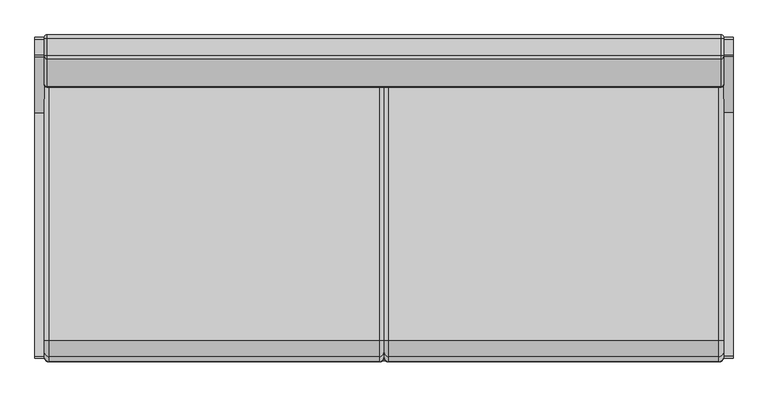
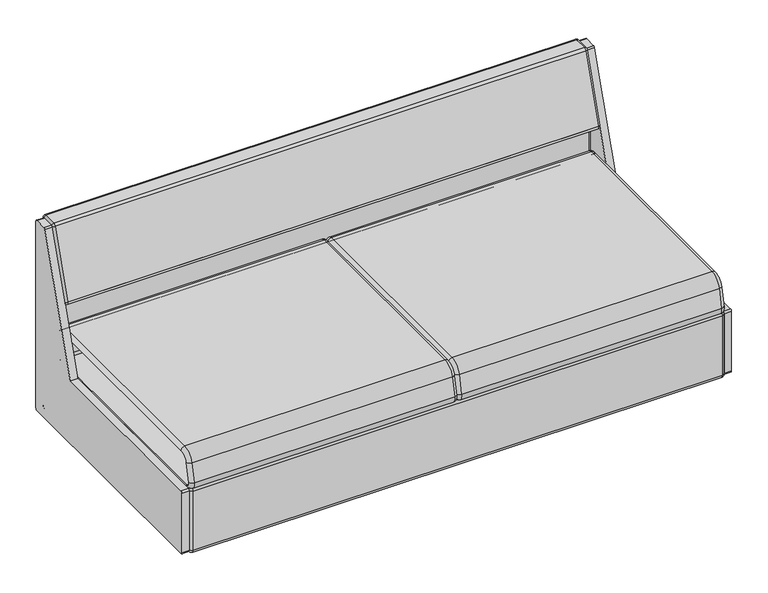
"""IFC4 building model written with IfcOpenShell, lengths in millimetres: furniture geometry, Krug-Amelio-Sleep_Sofa : AME6SL74FALS2."""

from ifc_helpers import new_model, si_unit, point, frame, frame_2d, origin, place, context, project, spatial, polyline, circle_curve, ellipse_curve, trimmed, segment, composite_curve, outline, extrude, source, transform, mapped, element, save
from ifc_brep_helpers import plane_surface, cylinder_surface, revolved_surface, advanced_brep


def furniture_3d70ace7(model_context):
    return source(origin(), model_context, "Body", "SolidModel", [
        advanced_brep(
        [(38.0998476, -937.2371716, 392.2628355), (38.0998476, -912.3922225, 361.5818786), (927.1, -912.3922225, 361.5818786), (927.1, -937.2371716, 392.2628355), (25.3998476, -924.8146971, 389.6223571), (25.3998476, -912.3922225, 374.2818786), (1854.2001524, -924.8146971, 389.6223571), (1854.2001524, -912.3922225, 374.2818786), (927.1, -923.6100731, 456.3732932), (38.0998476, -923.6100731, 456.3732932), (25.3998476, -911.1875986, 453.7328148), (1854.2001524, -911.1875986, 453.7328148), (38.0998476, -880.1314123, 491.5816186), (927.1, -880.1314123, 491.5816186), (25.3998476, -880.1314123, 478.8816186), (1854.2001524, -880.1314123, 478.8816186), (927.1, -165.3623193, 491.5816186), (38.0998476, -165.3623193, 491.5816186), (25.3998476, -165.3623193, 478.8816186), (1854.2001524, -165.3623193, 478.8816186), (38.0998476, -146.3123193, 472.5316186), (927.1, -146.3123193, 472.5316186), (25.3998476, -159.0123193, 472.5316186), (1854.2001524, -159.0123193, 472.5316186), (927.1, -146.3123193, 380.6318786), (38.0998476, -146.3123193, 380.6318786), (25.3998476, -159.0123193, 380.6318786), (1854.2001524, -159.0123193, 380.6318786), (38.0998476, -165.3623193, 361.5818786), (927.1, -165.3623193, 361.5818786), (25.3998476, -165.3623193, 374.2818786), (1854.2001524, -165.3623193, 374.2818786), (1841.5001524, -937.2371716, 392.2628355), (1841.5001524, -912.3922225, 361.5818786), (952.5, -937.2371716, 392.2628355), (952.5, -912.3922225, 361.5818786), (939.8, -926.3400373, 389.9465781), (939.8, -912.3922225, 372.7224613), (1841.5001524, -923.6100731, 456.3732932), (952.5, -923.6100731, 456.3732932), (939.8, -912.7129388, 454.0570358), (1841.5001524, -880.1314123, 491.5816186), (952.5, -880.1314123, 491.5816186), (939.8, -880.1314123, 480.4410358), (1841.5001524, -165.3623193, 491.5816186), (952.5, -165.3623193, 491.5816186), (939.8, -165.3623193, 480.4410358), (1841.5001524, -146.3123193, 472.5316186), (952.5, -146.3123193, 472.5316186), (939.8, -157.4529021, 472.5316186), (1841.5001524, -146.3123193, 380.6318786), (952.5, -146.3123193, 380.6318786), (939.8, -157.4529021, 380.6318786), (1841.5001524, -165.3623193, 361.5818786), (952.5, -165.3623193, 361.5818786), (939.8, -165.3623193, 372.7224613)],
        [
            (0, 1, circle_curve(frame((38.0998476, -912.3922225, 386.9818786), z_axis=(1.0, 0.0, 0.0), x_axis=(0.0, 0.0, -1.0)), 25.4)),
            (1, 2),
            (2, 3, circle_curve(frame((927.1, -912.3922225, 386.9818786), z_axis=(-1.0, 0.0, 0.0), x_axis=(0.0, 0.0, -1.0)), 25.4)),
            (3, 0),
            (4, 5, circle_curve(frame((25.3998476, -912.3922225, 386.9818786), z_axis=(1.0, 0.0, 0.0), x_axis=(0.0, 0.0, -1.0)), 12.7)),
            (5, 1, circle_curve(frame((38.0998476, -912.3922225, 374.2818786), z_axis=(0.0, -1.0, 0.0), x_axis=(0.0, 0.0, 1.0)), 12.7)),
            (0, 4, circle_curve(frame((38.0998476, -924.8146971, 389.6223571), z_axis=(0.0, -0.207911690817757, -0.9781476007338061), x_axis=(0.0, 0.9781476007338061, -0.207911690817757)), 12.7)),
            (6, 7, circle_curve(frame((1854.2001524, -912.3922225, 386.9818786), z_axis=(1.0, 0.0, 0.0), x_axis=(0.0, 0.0, -1.0)), 12.7)),
            (7, 5),
            (4, 6),
            (3, 8),
            (8, 9),
            (9, 0),
            (9, 10, circle_curve(frame((38.0998476, -911.1875986, 453.7328148), z_axis=(0.0, -0.20791169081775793, -0.978147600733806), x_axis=(0.0, 0.978147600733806, -0.20791169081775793)), 12.7)),
            (10, 4),
            (10, 11),
            (11, 6),
            (12, 9, circle_curve(frame((38.0998476, -880.1314123, 447.1316186), z_axis=(1.0, 0.0, 0.0), x_axis=(0.0, -0.9781476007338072, 0.20791169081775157)), 44.45)),
            (8, 13, circle_curve(frame((927.1, -880.1314123, 447.1316186), z_axis=(-1.0, 0.0, 0.0), x_axis=(0.0, -0.9781476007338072, 0.20791169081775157)), 44.45)),
            (13, 12),
            (14, 10, circle_curve(frame((25.3998476, -880.1314123, 447.1316186), z_axis=(1.0, 0.0, 0.0), x_axis=(0.0, -0.9781476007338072, 0.20791169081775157)), 31.75)),
            (12, 14, circle_curve(frame((38.0998476, -880.1314123, 478.8816186), z_axis=(0.0, -1.0, 0.0), x_axis=(0.0, 0.0, -1.0)), 12.7)),
            (15, 11, circle_curve(frame((1854.2001524, -880.1314123, 447.1316186), z_axis=(1.0, 0.0, 0.0), x_axis=(0.0, -0.9781476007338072, 0.20791169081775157)), 31.75)),
            (14, 15),
            (13, 16),
            (16, 17),
            (17, 12),
            (17, 18, circle_curve(frame((38.0998476, -165.3623193, 478.8816186), z_axis=(0.0, -1.0, 0.0), x_axis=(0.0, 0.0, -1.0)), 12.7)),
            (18, 14),
            (18, 19),
            (19, 15),
            (20, 17, circle_curve(frame((38.0998476, -165.3623193, 472.5316186), z_axis=(1.0, 0.0, 0.0), x_axis=(0.0, 0.0, 1.0)), 19.05)),
            (16, 21, circle_curve(frame((927.1, -165.3623193, 472.5316186), z_axis=(-1.0, 0.0, 0.0), x_axis=(0.0, 0.0, 1.0)), 19.05)),
            (21, 20),
            (22, 18, circle_curve(frame((25.3998476, -165.3623193, 472.5316186), z_axis=(1.0, 0.0, 0.0), x_axis=(0.0, 0.0, 1.0)), 6.35)),
            (20, 22, circle_curve(frame((38.0998476, -159.0123193, 472.5316186), z_axis=(0.0, 0.0, 1.0), x_axis=(0.0, -1.0, 0.0)), 12.7)),
            (23, 19, circle_curve(frame((1854.2001524, -165.3623193, 472.5316186), z_axis=(1.0, 0.0, 0.0), x_axis=(0.0, 0.0, 1.0)), 6.35)),
            (22, 23),
            (21, 24),
            (24, 25),
            (25, 20),
            (25, 26, circle_curve(frame((38.0998476, -159.0123193, 380.6318786), z_axis=(0.0, 0.0, 1.0), x_axis=(0.0, -1.0, 0.0)), 12.7)),
            (26, 22),
            (26, 27),
            (27, 23),
            (28, 25, circle_curve(frame((38.0998476, -165.3623193, 380.6318786), z_axis=(1.0, 0.0, 0.0), x_axis=(0.0, 1.0, 0.0)), 19.05)),
            (24, 29, circle_curve(frame((927.1, -165.3623193, 380.6318786), z_axis=(-1.0, 0.0, 0.0), x_axis=(0.0, 1.0, 0.0)), 19.05)),
            (29, 28),
            (30, 26, circle_curve(frame((25.3998476, -165.3623193, 380.6318786), z_axis=(1.0, 0.0, 0.0), x_axis=(0.0, 1.0, 0.0)), 6.35)),
            (28, 30, circle_curve(frame((38.0998476, -165.3623193, 374.2818786), z_axis=(0.0, 1.0, 0.0), x_axis=(0.0, 0.0, 1.0)), 12.7)),
            (31, 27, circle_curve(frame((1854.2001524, -165.3623193, 380.6318786), z_axis=(1.0, 0.0, 0.0), x_axis=(0.0, 1.0, 0.0)), 6.35)),
            (30, 31),
            (29, 2),
            (1, 28),
            (5, 30),
            (7, 31),
            (32, 33, circle_curve(frame((1841.5001524, -912.3922225, 386.9818786), z_axis=(1.0, 0.0, 0.0), x_axis=(0.0, 0.0, -1.0)), 25.4)),
            (33, 7, circle_curve(frame((1841.5001524, -912.3922225, 374.2818786), z_axis=(0.0, -1.0, 0.0), x_axis=(0.0, 0.0, 1.0)), 12.7)),
            (6, 32, circle_curve(frame((1841.5001524, -924.8146971, 389.6223571), z_axis=(0.0, -0.20791169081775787, -0.9781476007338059), x_axis=(0.0, 0.9781476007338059, -0.20791169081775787)), 12.7)),
            (34, 35, circle_curve(frame((952.5, -912.3922225, 386.9818786), z_axis=(1.0, 0.0, 0.0), x_axis=(0.0, 0.0, -1.0)), 25.4)),
            (35, 33),
            (32, 34),
            (36, 37, circle_curve(frame((939.8, -912.3922225, 386.9818786), z_axis=(1.0, 0.0, 0.0), x_axis=(0.0, 0.0, -1.0)), 14.2594172)),
            (37, 35, circle_curve(frame((952.5, -912.3922225, 374.3910193), z_axis=(0.0, -1.0, 0.0), x_axis=(0.0, 0.0, 1.0)), 12.8091407)),
            (34, 36, circle_curve(frame((952.5, -924.7079413, 389.5996654), z_axis=(0.0, -0.20791169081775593, -0.9781476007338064), x_axis=(0.0, 0.9781476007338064, -0.20791169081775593)), 12.8091407)),
            (2, 37, circle_curve(frame((927.1, -912.3922225, 374.3910193), z_axis=(0.0, -1.0, 0.0), x_axis=(0.0, 0.0, 1.0)), 12.8091407)),
            (36, 3, circle_curve(frame((927.1, -924.7079413, 389.5996654), z_axis=(0.0, -0.2079116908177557, -0.9781476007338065), x_axis=(0.0, 0.9781476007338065, -0.2079116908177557)), 12.8091407)),
            (11, 38, circle_curve(frame((1841.5001524, -911.1875986, 453.7328148), z_axis=(0.0, -0.20791169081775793, -0.978147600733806), x_axis=(0.0, 0.978147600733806, -0.20791169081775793)), 12.7)),
            (38, 32),
            (38, 39),
            (39, 34),
            (39, 40, circle_curve(frame((952.5, -911.0808429, 453.7101231), z_axis=(0.0, -0.20791169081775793, -0.978147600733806), x_axis=(0.0, 0.978147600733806, -0.20791169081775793)), 12.8091407)),
            (40, 36),
            (40, 8, circle_curve(frame((927.1, -911.0808429, 453.7101231), z_axis=(0.0, -0.20791169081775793, -0.978147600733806), x_axis=(0.0, 0.978147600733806, -0.20791169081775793)), 12.8091407)),
            (41, 38, circle_curve(frame((1841.5001524, -880.1314123, 447.1316186), z_axis=(1.0, 0.0, 0.0), x_axis=(0.0, -0.9781476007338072, 0.20791169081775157)), 44.45)),
            (15, 41, circle_curve(frame((1841.5001524, -880.1314123, 478.8816186), z_axis=(0.0, -0.9999999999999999, 0.0), x_axis=(0.0, 0.0, -0.9999999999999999)), 12.7)),
            (42, 39, circle_curve(frame((952.5, -880.1314123, 447.1316186), z_axis=(1.0, 0.0, 0.0), x_axis=(0.0, -0.9781476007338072, 0.20791169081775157)), 44.45)),
            (41, 42),
            (43, 40, circle_curve(frame((939.8, -880.1314123, 447.1316186), z_axis=(1.0, 0.0, 0.0), x_axis=(0.0, -0.9781476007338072, 0.20791169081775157)), 33.3094172)),
            (42, 43, circle_curve(frame((952.5, -880.1314123, 478.7724779), z_axis=(0.0, -0.9999999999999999, 0.0), x_axis=(0.0, 0.0, -0.9999999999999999)), 12.8091407)),
            (43, 13, circle_curve(frame((927.1, -880.1314123, 478.7724779), z_axis=(0.0, -1.0, 0.0), x_axis=(0.0, 0.0, -1.0)), 12.8091407)),
            (19, 44, circle_curve(frame((1841.5001524, -165.3623193, 478.8816186), z_axis=(0.0, -1.0, 0.0), x_axis=(0.0, 0.0, -1.0)), 12.7)),
            (44, 41),
            (44, 45),
            (45, 42),
            (45, 46, circle_curve(frame((952.5, -165.3623193, 478.7724779), z_axis=(0.0, -1.0, 0.0), x_axis=(0.0, 0.0, -1.0)), 12.8091407)),
            (46, 43),
            (46, 16, circle_curve(frame((927.1, -165.3623193, 478.7724779), z_axis=(0.0, -1.0, 0.0), x_axis=(0.0, 0.0, -1.0)), 12.8091407)),
            (47, 44, circle_curve(frame((1841.5001524, -165.3623193, 472.5316186), z_axis=(1.0, 0.0, 0.0), x_axis=(0.0, 0.0, 1.0)), 19.05)),
            (23, 47, circle_curve(frame((1841.5001524, -159.0123193, 472.5316186), z_axis=(0.0, 0.0, 1.0), x_axis=(0.0, -1.0, 0.0)), 12.7)),
            (48, 45, circle_curve(frame((952.5, -165.3623193, 472.5316186), z_axis=(1.0, 0.0, 0.0), x_axis=(0.0, 0.0, 1.0)), 19.05)),
            (47, 48),
            (49, 46, circle_curve(frame((939.8, -165.3623193, 472.5316186), z_axis=(1.0, 0.0, 0.0), x_axis=(0.0, 0.0, 1.0)), 7.9094172)),
            (48, 49, circle_curve(frame((952.5, -159.12146, 472.5316186), z_axis=(0.0, 0.0, 1.0), x_axis=(0.0, -1.0, 0.0)), 12.8091407)),
            (49, 21, circle_curve(frame((927.1, -159.12146, 472.5316186), z_axis=(0.0, 0.0, 1.0), x_axis=(0.0, -1.0, 0.0)), 12.8091407)),
            (27, 50, circle_curve(frame((1841.5001524, -159.0123193, 380.6318786), z_axis=(0.0, 0.0, 1.0), x_axis=(0.0, -1.0, 0.0)), 12.7)),
            (50, 47),
            (50, 51),
            (51, 48),
            (51, 52, circle_curve(frame((952.5, -159.12146, 380.6318786), z_axis=(0.0, 0.0, 1.0), x_axis=(0.0, -1.0, 0.0)), 12.8091407)),
            (52, 49),
            (52, 24, circle_curve(frame((927.1, -159.12146, 380.6318786), z_axis=(0.0, 0.0, 1.0), x_axis=(0.0, -1.0, 0.0)), 12.8091407)),
            (53, 50, circle_curve(frame((1841.5001524, -165.3623193, 380.6318786), z_axis=(1.0, 0.0, 0.0), x_axis=(0.0, 1.0, 0.0)), 19.05)),
            (31, 53, circle_curve(frame((1841.5001524, -165.3623193, 374.2818786), z_axis=(0.0, 1.0, 0.0), x_axis=(0.0, 0.0, 1.0)), 12.7)),
            (54, 51, circle_curve(frame((952.5, -165.3623193, 380.6318786), z_axis=(1.0, 0.0, 0.0), x_axis=(0.0, 1.0, 0.0)), 19.05)),
            (53, 54),
            (55, 52, circle_curve(frame((939.8, -165.3623193, 380.6318786), z_axis=(1.0, 0.0, 0.0), x_axis=(0.0, 1.0, 0.0)), 7.9094172)),
            (54, 55, circle_curve(frame((952.5, -165.3623193, 374.3910193), z_axis=(0.0, 1.0, 0.0), x_axis=(0.0, 0.0, 1.0)), 12.8091407)),
            (55, 29, circle_curve(frame((927.1, -165.3623193, 374.3910193), z_axis=(0.0, 1.0, 0.0), x_axis=(0.0, 0.0, 1.0)), 12.8091407)),
            (33, 53),
            (35, 54),
            (37, 55),
        ],
        [
            cylinder_surface(frame((25.3998476, -912.3922225, 386.9818786), z_axis=(-1.0, 0.0, 0.0), x_axis=(0.0, 0.0, -1.0)), 25.4),
            revolved_surface(trimmed(ellipse_curve(frame((38.0998476, -912.3922225, 374.2818786), z_axis=(0.0, 1.0, 0.0), x_axis=(0.0, 0.0, 1.0)), 12.7, 12.7), [point((38.0998476, -912.3922225, 361.5818786))], [point((25.3998476, -912.3922225, 374.2818786))], True, "CARTESIAN"), (25.3998476, -912.3922225, 386.9818786), (-1.0, 0.0, 0.0)),
            revolved_surface(polyline([(25.3998476, -912.3922225, 374.2818786), (1854.2001524, -912.3922225, 374.2818786)]), (25.3998476, -912.3922225, 386.9818786), (-1.0, 0.0, 0.0)),
            plane_surface(frame((927.1, -937.2371716, 392.2628355), z_axis=(0.0, -0.978147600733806, 0.20791169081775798), x_axis=(0.0, 0.20791169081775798, 0.978147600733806))),
            cylinder_surface(frame((38.0998476, -924.8146971, 389.6223571), z_axis=(0.0, -0.20791169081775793, -0.978147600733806), x_axis=(0.0, 0.978147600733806, -0.20791169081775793)), 12.7),
            plane_surface(frame((25.3998476, -924.8146971, 389.6223571), z_axis=(0.0, 0.9781476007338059, -0.20791169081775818), x_axis=(0.0, 0.20791169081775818, 0.9781476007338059))),
            cylinder_surface(frame((25.3998476, -880.1314123, 447.1316186), z_axis=(-1.0, 0.0, 0.0), x_axis=(0.0, -0.9781476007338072, 0.20791169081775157)), 44.45),
            revolved_surface(trimmed(ellipse_curve(frame((38.0998476, -911.1875986, 453.7328148), z_axis=(0.0, -0.2079116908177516, -0.9781476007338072), x_axis=(0.0, 0.9781476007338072, -0.2079116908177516)), 12.7, 12.7), [point((38.0998476, -923.6100731, 456.3732932))], [point((25.3998476, -911.1875986, 453.7328148))], True, "CARTESIAN"), (25.3998476, -880.1314123, 447.1316186), (-1.0, 0.0, 0.0)),
            revolved_surface(polyline([(25.3998476, -911.1875986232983, 453.73281478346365), (1854.2001524, -911.1875986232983, 453.73281478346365)]), (25.3998476, -880.1314123, 447.1316186), (-1.0, 0.0, 0.0)),
            plane_surface(frame((927.1, -880.1314123, 491.5816186), z_axis=(0.0, 0.0, 1.0), x_axis=(0.0, 1.0, 0.0))),
            cylinder_surface(frame((38.0998476, -880.1314123, 478.8816186), z_axis=(0.0, -1.0, 0.0), x_axis=(0.0, 0.0, -1.0)), 12.7),
            plane_surface(frame((25.3998476, -880.1314123, 478.8816186), z_axis=(0.0, 0.0, -1.0), x_axis=(0.0, 1.0, 0.0))),
            cylinder_surface(frame((25.3998476, -165.3623193, 472.5316186), z_axis=(-1.0, 0.0, 0.0), x_axis=(0.0, 0.0, 1.0)), 19.05),
            revolved_surface(trimmed(ellipse_curve(frame((38.0998476, -165.3623193, 478.8816186), z_axis=(0.0, -1.0, 0.0), x_axis=(0.0, 0.0, -1.0)), 12.7, 12.7), [point((38.0998476, -165.3623193, 491.5816186))], [point((25.3998476, -165.3623193, 478.8816186))], True, "CARTESIAN"), (25.3998476, -165.3623193, 472.5316186), (-1.0, 0.0, 0.0)),
            revolved_surface(polyline([(25.3998476, -165.3623193, 478.8816186), (1854.2001524, -165.3623193, 478.8816186)]), (25.3998476, -165.3623193, 472.5316186), (-1.0, 0.0, 0.0)),
            plane_surface(frame((927.1, -146.3123193, 472.5316186), z_axis=(0.0, 1.0, 0.0), x_axis=(0.0, 0.0, -1.0))),
            cylinder_surface(frame((38.0998476, -159.0123193, 472.5316186), z_axis=(0.0, 0.0, 1.0), x_axis=(0.0, -1.0, 0.0)), 12.7),
            plane_surface(frame((25.3998476, -159.0123193, 472.5316186), z_axis=(0.0, -1.0, 0.0), x_axis=(0.0, 0.0, -1.0))),
            cylinder_surface(frame((25.3998476, -165.3623193, 380.6318786), z_axis=(-1.0, 0.0, 0.0), x_axis=(0.0, 1.0, 0.0)), 19.05),
            revolved_surface(trimmed(ellipse_curve(frame((38.0998476, -159.0123193, 380.6318786), z_axis=(0.0, 0.0, 1.0), x_axis=(0.0, -1.0, 0.0)), 12.7, 12.7), [point((38.0998476, -146.3123193, 380.6318786))], [point((25.3998476, -159.0123193, 380.6318786))], True, "CARTESIAN"), (25.3998476, -165.3623193, 380.6318786), (-1.0, 0.0, 0.0)),
            revolved_surface(polyline([(25.3998476, -159.0123193, 380.6318786), (1854.2001524, -159.0123193, 380.6318786)]), (25.3998476, -165.3623193, 380.6318786), (-1.0, 0.0, 0.0)),
            plane_surface(frame((927.1, -165.3623193, 361.5818786), z_axis=(0.0, 0.0, -1.0), x_axis=(0.0, -1.0, 0.0))),
            cylinder_surface(frame((38.0998476, -165.3623193, 374.2818786), z_axis=(0.0, 1.0, 0.0), x_axis=(0.0, 0.0, 1.0)), 12.7),
            plane_surface(frame((25.3998476, -165.3623193, 374.2818786), z_axis=(0.0, 0.0, 1.0), x_axis=(0.0, -1.0, 0.0))),
            revolved_surface(trimmed(ellipse_curve(frame((1841.5001524, -912.3922225, 374.2818786), z_axis=(0.0, 1.0, 0.0), x_axis=(0.0, 0.0, 1.0)), 12.7, 12.7), [point((1854.2001524, -912.3922225, 374.2818786))], [point((1841.5001524, -912.3922225, 361.5818786))], True, "CARTESIAN"), (25.3998476, -912.3922225, 386.9818786), (-1.0, 0.0, 0.0)),
            revolved_surface(trimmed(ellipse_curve(frame((952.5, -912.3922225, 374.3910193), z_axis=(0.0, 1.0, 0.0), x_axis=(0.0, 0.0, 1.0)), 12.8091407, 12.8091407), [point((952.5, -912.3922225, 361.5818786))], [point((939.8, -912.3922225, 372.7224613))], True, "CARTESIAN"), (25.3998476, -912.3922225, 386.9818786), (-1.0, 0.0, 0.0)),
            revolved_surface(trimmed(ellipse_curve(frame((927.1, -912.3922225, 374.3910193), z_axis=(0.0, 1.0, 0.0), x_axis=(0.0, 0.0, 1.0)), 12.8091407, 12.8091407), [point((939.8, -912.3922225, 372.7224613))], [point((927.1, -912.3922225, 361.5818786))], True, "CARTESIAN"), (25.3998476, -912.3922225, 386.9818786), (-1.0, 0.0, 0.0)),
            cylinder_surface(frame((1841.5001524, -924.8146971, 389.6223571), z_axis=(0.0, -0.20791169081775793, -0.978147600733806), x_axis=(0.0, 0.978147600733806, -0.20791169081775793)), 12.7),
            plane_surface(frame((1841.5001524, -937.2371716, 392.2628355), z_axis=(0.0, -0.978147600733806, 0.20791169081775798), x_axis=(0.0, 0.20791169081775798, 0.978147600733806))),
            cylinder_surface(frame((952.5, -924.7079413, 389.5996654), z_axis=(0.0, -0.20791169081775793, -0.978147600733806), x_axis=(0.0, 0.978147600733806, -0.20791169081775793)), 12.8091407),
            cylinder_surface(frame((927.1, -924.7079413, 389.5996654), z_axis=(0.0, -0.20791169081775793, -0.978147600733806), x_axis=(0.0, 0.978147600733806, -0.20791169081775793)), 12.8091407),
            revolved_surface(trimmed(ellipse_curve(frame((1841.5001524, -911.1875986, 453.7328148), z_axis=(0.0, -0.2079116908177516, -0.9781476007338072), x_axis=(0.0, 0.9781476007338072, -0.2079116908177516)), 12.7, 12.7), [point((1854.2001524, -911.1875986, 453.7328148))], [point((1841.5001524, -923.6100731, 456.3732932))], True, "CARTESIAN"), (25.3998476, -880.1314123, 447.1316186), (-1.0, 0.0, 0.0)),
            revolved_surface(trimmed(ellipse_curve(frame((952.5, -911.0808429, 453.7101231), z_axis=(0.0, -0.2079116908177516, -0.9781476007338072), x_axis=(0.0, 0.9781476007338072, -0.2079116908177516)), 12.8091407, 12.8091407), [point((952.5, -923.6100731, 456.3732932))], [point((939.8, -912.7129388, 454.0570358))], True, "CARTESIAN"), (25.3998476, -880.1314123, 447.1316186), (-1.0, 0.0, 0.0)),
            revolved_surface(trimmed(ellipse_curve(frame((927.1, -911.0808429, 453.7101231), z_axis=(0.0, -0.2079116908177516, -0.9781476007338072), x_axis=(0.0, 0.9781476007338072, -0.2079116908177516)), 12.8091407, 12.8091407), [point((939.8, -912.7129388, 454.0570358))], [point((927.1, -923.6100731, 456.3732932))], True, "CARTESIAN"), (25.3998476, -880.1314123, 447.1316186), (-1.0, 0.0, 0.0)),
            cylinder_surface(frame((1841.5001524, -880.1314123, 478.8816186), z_axis=(0.0, -1.0, 0.0), x_axis=(0.0, 0.0, -1.0)), 12.7),
            plane_surface(frame((1841.5001524, -880.1314123, 491.5816186), z_axis=(0.0, 0.0, 1.0), x_axis=(0.0, 1.0, 0.0))),
            cylinder_surface(frame((952.5, -880.1314123, 478.7724779), z_axis=(0.0, -1.0, 0.0), x_axis=(0.0, 0.0, -1.0)), 12.8091407),
            cylinder_surface(frame((927.1, -880.1314123, 478.7724779), z_axis=(0.0, -1.0, 0.0), x_axis=(0.0, 0.0, -1.0)), 12.8091407),
            revolved_surface(trimmed(ellipse_curve(frame((1841.5001524, -165.3623193, 478.8816186), z_axis=(0.0, -1.0, 0.0), x_axis=(0.0, 0.0, -1.0)), 12.7, 12.7), [point((1854.2001524, -165.3623193, 478.8816186))], [point((1841.5001524, -165.3623193, 491.5816186))], True, "CARTESIAN"), (25.3998476, -165.3623193, 472.5316186), (-1.0, 0.0, 0.0)),
            revolved_surface(trimmed(ellipse_curve(frame((952.5, -165.3623193, 478.7724779), z_axis=(0.0, -1.0, 0.0), x_axis=(0.0, 0.0, -1.0)), 12.8091407, 12.8091407), [point((952.5, -165.3623193, 491.5816186))], [point((939.8, -165.3623193, 480.4410358))], True, "CARTESIAN"), (25.3998476, -165.3623193, 472.5316186), (-1.0, 0.0, 0.0)),
            revolved_surface(trimmed(ellipse_curve(frame((927.1, -165.3623193, 478.7724779), z_axis=(0.0, -1.0, 0.0), x_axis=(0.0, 0.0, -1.0)), 12.8091407, 12.8091407), [point((939.8, -165.3623193, 480.4410358))], [point((927.1, -165.3623193, 491.5816186))], True, "CARTESIAN"), (25.3998476, -165.3623193, 472.5316186), (-1.0, 0.0, 0.0)),
            cylinder_surface(frame((1841.5001524, -159.0123193, 472.5316186), z_axis=(0.0, 0.0, 1.0), x_axis=(0.0, -1.0, 0.0)), 12.7),
            plane_surface(frame((1841.5001524, -146.3123193, 472.5316186), z_axis=(0.0, 1.0, 0.0), x_axis=(0.0, 0.0, -1.0))),
            cylinder_surface(frame((952.5, -159.12146, 472.5316186), z_axis=(0.0, 0.0, 1.0), x_axis=(0.0, -1.0, 0.0)), 12.8091407),
            cylinder_surface(frame((927.1, -159.12146, 472.5316186), z_axis=(0.0, 0.0, 1.0), x_axis=(0.0, -1.0, 0.0)), 12.8091407),
            revolved_surface(trimmed(ellipse_curve(frame((1841.5001524, -159.0123193, 380.6318786), z_axis=(0.0, 0.0, 1.0), x_axis=(0.0, -1.0, 0.0)), 12.7, 12.7), [point((1854.2001524, -159.0123193, 380.6318786))], [point((1841.5001524, -146.3123193, 380.6318786))], True, "CARTESIAN"), (25.3998476, -165.3623193, 380.6318786), (-1.0, 0.0, 0.0)),
            revolved_surface(trimmed(ellipse_curve(frame((952.5, -159.12146, 380.6318786), z_axis=(0.0, 0.0, 1.0), x_axis=(0.0, -1.0, 0.0)), 12.8091407, 12.8091407), [point((952.5, -146.3123193, 380.6318786))], [point((939.8, -157.4529021, 380.6318786))], True, "CARTESIAN"), (25.3998476, -165.3623193, 380.6318786), (-1.0, 0.0, 0.0)),
            revolved_surface(trimmed(ellipse_curve(frame((927.1, -159.12146, 380.6318786), z_axis=(0.0, 0.0, 1.0), x_axis=(0.0, -1.0, 0.0)), 12.8091407, 12.8091407), [point((939.8, -157.4529021, 380.6318786))], [point((927.1, -146.3123193, 380.6318786))], True, "CARTESIAN"), (25.3998476, -165.3623193, 380.6318786), (-1.0, 0.0, 0.0)),
            cylinder_surface(frame((1841.5001524, -165.3623193, 374.2818786), z_axis=(0.0, 1.0, 0.0), x_axis=(0.0, 0.0, 1.0)), 12.7),
            plane_surface(frame((1841.5001524, -165.3623193, 361.5818786), z_axis=(0.0, 0.0, -1.0), x_axis=(0.0, -1.0, 0.0))),
            cylinder_surface(frame((952.5, -165.3623193, 374.3910193), z_axis=(0.0, 1.0, 0.0), x_axis=(0.0, 0.0, 1.0)), 12.8091407),
            cylinder_surface(frame((927.1, -165.3623193, 374.3910193), z_axis=(0.0, 1.0, 0.0), x_axis=(0.0, 0.0, 1.0)), 12.8091407),
        ],
        [
            (0, [[1, 2, 3, 4]]),
            (1, [[5, 6, -1, 7]]),
            (2, [[8, 9, -5, 10]]),
            (3, [[-4, 11, 12, 13]]),
            (4, [[-7, -13, 14, 15]]),
            (5, [[-10, -15, 16, 17]]),
            (6, [[18, -12, 19, 20]]),
            (7, [[21, -14, -18, 22]]),
            (8, [[23, -16, -21, 24]]),
            (9, [[-20, 25, 26, 27]]),
            (10, [[-22, -27, 28, 29]]),
            (11, [[-24, -29, 30, 31]]),
            (12, [[32, -26, 33, 34]]),
            (13, [[35, -28, -32, 36]]),
            (14, [[37, -30, -35, 38]]),
            (15, [[-34, 39, 40, 41]]),
            (16, [[-36, -41, 42, 43]]),
            (17, [[-38, -43, 44, 45]]),
            (18, [[46, -40, 47, 48]]),
            (19, [[49, -42, -46, 50]]),
            (20, [[51, -44, -49, 52]]),
            (21, [[-48, 53, -2, 54]]),
            (22, [[-50, -54, -6, 55]]),
            (23, [[-52, -55, -9, 56]]),
            (24, [[57, 58, -8, 59]]),
            (0, [[60, 61, -57, 62]]),
            (25, [[63, 64, -60, 65]]),
            (26, [[-3, 66, -63, 67]]),
            (27, [[-59, -17, 68, 69]]),
            (28, [[-62, -69, 70, 71]]),
            (29, [[-65, -71, 72, 73]]),
            (30, [[-67, -73, 74, -11]]),
            (31, [[75, -68, -23, 76]]),
            (6, [[77, -70, -75, 78]]),
            (32, [[79, -72, -77, 80]]),
            (33, [[-19, -74, -79, 81]]),
            (34, [[-76, -31, 82, 83]]),
            (35, [[-78, -83, 84, 85]]),
            (36, [[-80, -85, 86, 87]]),
            (37, [[-81, -87, 88, -25]]),
            (38, [[89, -82, -37, 90]]),
            (12, [[91, -84, -89, 92]]),
            (39, [[93, -86, -91, 94]]),
            (40, [[-33, -88, -93, 95]]),
            (41, [[-90, -45, 96, 97]]),
            (42, [[-92, -97, 98, 99]]),
            (43, [[-94, -99, 100, 101]]),
            (44, [[-95, -101, 102, -39]]),
            (45, [[103, -96, -51, 104]]),
            (18, [[105, -98, -103, 106]]),
            (46, [[107, -100, -105, 108]]),
            (47, [[-47, -102, -107, 109]]),
            (48, [[-104, -56, -58, 110]]),
            (49, [[-106, -110, -61, 111]]),
            (50, [[-108, -111, -64, 112]]),
            (51, [[-109, -112, -66, -53]]),
        ],
    ),
        advanced_brep(
        [(1844.6751524, -921.9607509, 134.9997313), (34.9248476, -921.9607509, 134.9997313), (25.3998476, -921.9607509, 144.5247313), (1854.2001524, -921.9607509, 144.5247313), (34.9248476, -934.660749, 147.6997294), (1844.6751524, -934.660749, 147.6997294), (25.3998476, -925.135749, 147.6997294), (1854.2001524, -925.135749, 147.6997294), (1844.6751524, -934.660749, 362.2992506), (34.9248476, -934.660749, 362.2992506), (25.3998476, -925.135749, 362.2992506), (1854.2001524, -925.135749, 362.2992506), (1844.6751524, -921.9607509, 374.9992487), (1854.2001524, -921.9607509, 365.4742487), (25.3998476, -921.9607509, 365.4742487), (34.9248476, -921.9607509, 374.9992487)],
        [
            (0, 1),
            (1, 2, circle_curve(frame((34.9248476, -921.9607509, 144.5247313), z_axis=(0.0, 1.0, 0.0), x_axis=(0.0, 0.0, 1.0)), 9.525)),
            (2, 3),
            (3, 0, circle_curve(frame((1844.6751524, -921.9607509, 144.5247313), z_axis=(0.0, 1.0, 0.0), x_axis=(0.0, 0.0, 1.0)), 9.525)),
            (4, 1, circle_curve(frame((34.9248476, -921.9607509, 147.6997294), z_axis=(1.0, 0.0, 0.0), x_axis=(0.0, 0.0, -1.0)), 12.6999981)),
            (0, 5, circle_curve(frame((1844.6751524, -921.9607509, 147.6997294), z_axis=(-1.0, 0.0, 0.0), x_axis=(0.0, 0.0, -1.0)), 12.6999981)),
            (5, 4),
            (6, 2, circle_curve(frame((25.3998476, -921.9607509, 147.6997294), z_axis=(1.0, 0.0, 0.0), x_axis=(0.0, 0.0, -1.0)), 3.1749981)),
            (4, 6, circle_curve(frame((34.9248476, -925.135749, 147.6997294), z_axis=(0.0, 0.0, -1.0), x_axis=(0.0, 1.0, 0.0)), 9.525)),
            (7, 3, circle_curve(frame((1854.2001524, -921.9607509, 147.6997294), z_axis=(1.0, 0.0, 0.0), x_axis=(0.0, 0.0, -1.0)), 3.1749981)),
            (6, 7),
            (7, 5, circle_curve(frame((1844.6751524, -925.135749, 147.6997294), z_axis=(0.0, 0.0, -1.0), x_axis=(0.0, 1.0, 0.0)), 9.525)),
            (5, 8),
            (8, 9),
            (9, 4),
            (9, 10, circle_curve(frame((34.9248476, -925.135749, 362.2992506), z_axis=(0.0, 0.0, -1.0), x_axis=(0.0, 1.0, 0.0)), 9.525)),
            (10, 6),
            (10, 11),
            (11, 7),
            (11, 8, circle_curve(frame((1844.6751524, -925.135749, 362.2992506), z_axis=(0.0, 0.0, -1.0), x_axis=(0.0, 1.0, 0.0)), 9.525)),
            (12, 13, circle_curve(frame((1844.6751524, -921.9607509, 365.4742487), z_axis=(0.0, 1.0, 0.0), x_axis=(0.0, 0.0, -1.0)), 9.525)),
            (13, 14),
            (14, 15, circle_curve(frame((34.9248476, -921.9607509, 365.4742487), z_axis=(0.0, 1.0, 0.0), x_axis=(0.0, 0.0, -1.0)), 9.525)),
            (15, 12),
            (15, 9, circle_curve(frame((34.9248476, -921.9607509, 362.2992506), z_axis=(1.0, 0.0, 0.0), x_axis=(0.0, -1.0, 0.0)), 12.6999981)),
            (8, 12, circle_curve(frame((1844.6751524, -921.9607509, 362.2992506), z_axis=(-1.0, 0.0, 0.0), x_axis=(0.0, -1.0, 0.0)), 12.6999981)),
            (14, 10, circle_curve(frame((25.3998476, -921.9607509, 362.2992506), z_axis=(1.0, 0.0, 0.0), x_axis=(0.0, -1.0, 0.0)), 3.1749981)),
            (13, 11, circle_curve(frame((1854.2001524, -921.9607509, 362.2992506), z_axis=(1.0, 0.0, 0.0), x_axis=(0.0, -1.0, 0.0)), 3.1749981)),
        ],
        [
            plane_surface(frame((25.3998476, -921.9607509, 134.9997313), z_axis=(0.0, 1.0, 0.0), x_axis=(-1.0, 0.0, 0.0))),
            cylinder_surface(frame((25.3998476, -921.9607509, 147.6997294), z_axis=(-1.0, 0.0, 0.0), x_axis=(0.0, 0.0, -1.0)), 12.6999981),
            revolved_surface(trimmed(ellipse_curve(frame((34.9248476, -921.9607509, 144.5247313), z_axis=(0.0, 1.0, 0.0), x_axis=(0.0, 0.0, 1.0)), 9.525, 9.525), [point((34.9248476, -921.9607509, 134.9997313))], [point((25.3998476, -921.9607509, 144.5247313))], True, "CARTESIAN"), (25.3998476, -921.9607509, 147.6997294), (-1.0, 0.0, 0.0)),
            revolved_surface(polyline([(25.3998476, -921.9607509, 144.52473129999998), (1854.2001524, -921.9607509, 144.52473129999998)]), (25.3998476, -921.9607509, 147.6997294), (-1.0, 0.0, 0.0)),
            revolved_surface(trimmed(ellipse_curve(frame((1844.6751524, -921.9607509, 144.5247313), z_axis=(0.0, 1.0, 0.0), x_axis=(0.0, 0.0, 1.0)), 9.525, 9.525), [point((1854.2001524, -921.9607509, 144.5247313))], [point((1844.6751524, -921.9607509, 134.9997313))], True, "CARTESIAN"), (25.3998476, -921.9607509, 147.6997294), (-1.0, 0.0, 0.0)),
            plane_surface(frame((1844.6751524, -934.660749, 147.6997294), z_axis=(0.0, -1.0, 0.0), x_axis=(0.0, 0.0, 1.0))),
            cylinder_surface(frame((34.9248476, -925.135749, 147.6997294), z_axis=(0.0, 0.0, -1.0), x_axis=(0.0, 1.0, 0.0)), 9.525),
            plane_surface(frame((25.3998476, -925.135749, 147.6997294), z_axis=(0.0, 1.0, 0.0), x_axis=(0.0, 0.0, 1.0))),
            cylinder_surface(frame((1844.6751524, -925.135749, 147.6997294), z_axis=(0.0, 0.0, -1.0), x_axis=(0.0, 1.0, 0.0)), 9.525),
            plane_surface(frame((25.3998476, -921.9607509, 374.9992487), z_axis=(0.0, 1.0, 0.0), x_axis=(-1.0, 0.0, 0.0))),
            cylinder_surface(frame((25.3998476, -921.9607509, 362.2992506), z_axis=(-1.0, 0.0, 0.0), x_axis=(0.0, -1.0, 0.0)), 12.6999981),
            revolved_surface(trimmed(ellipse_curve(frame((34.9248476, -925.135749, 362.2992506), z_axis=(0.0, 0.0, -1.0), x_axis=(0.0, 1.0, 0.0)), 9.525, 9.525), [point((34.9248476, -934.660749, 362.2992506))], [point((25.3998476, -925.135749, 362.2992506))], True, "CARTESIAN"), (25.3998476, -921.9607509, 362.2992506), (-1.0, 0.0, 0.0)),
            revolved_surface(polyline([(25.3998476, -925.135749, 362.2992506), (1854.2001524, -925.135749, 362.2992506)]), (25.3998476, -921.9607509, 362.2992506), (-1.0, 0.0, 0.0)),
            revolved_surface(trimmed(ellipse_curve(frame((1844.6751524, -925.135749, 362.2992506), z_axis=(0.0, 0.0, -1.0), x_axis=(0.0, 1.0, 0.0)), 9.525, 9.525), [point((1854.2001524, -925.135749, 362.2992506))], [point((1844.6751524, -934.660749, 362.2992506))], True, "CARTESIAN"), (25.3998476, -921.9607509, 362.2992506), (-1.0, 0.0, 0.0)),
        ],
        [
            (0, [[1, 2, 3, 4]]),
            (1, [[5, -1, 6, 7]]),
            (2, [[8, -2, -5, 9]]),
            (3, [[10, -3, -8, 11]]),
            (4, [[-6, -4, -10, 12]]),
            (5, [[-7, 13, 14, 15]]),
            (6, [[-9, -15, 16, 17]]),
            (7, [[-11, -17, 18, 19]]),
            (8, [[-12, -19, 20, -13]]),
            (9, [[21, 22, 23, 24]]),
            (10, [[25, -14, 26, -24]]),
            (11, [[27, -16, -25, -23]]),
            (12, [[28, -18, -27, -22]]),
            (13, [[-26, -20, -28, -21]]),
        ],
    ),
        advanced_brep(
        [(1854.1958852, -63.7624971, 144.52473), (1854.1958852, -66.9374971, 141.34973), (1847.8458852, -66.9374971, 134.99973), (1847.8458852, -57.4124971, 144.52473), (25.3998476, -63.7624971, 144.52473), (25.3998476, -66.9374971, 141.34973), (31.7498476, -57.4124971, 144.52473), (31.7498476, -66.9374971, 134.99973), (1847.8458852, -57.4124971, 826.0983288), (1854.1958852, -63.7624971, 826.0983288), (25.3998476, -63.7624971, 826.0983288), (31.7498476, -57.4124971, 826.0983288), (1854.1958852, -66.9374971, 829.2733287), (1847.8458852, -66.9374971, 835.6233287), (25.3998476, -66.9374971, 829.2733287), (31.7498476, -66.9374971, 835.6233288), (1847.8458852, -112.8215494, 835.6233287), (1854.1958852, -112.8215494, 829.2733287), (25.3998476, -112.8215494, 829.2733287), (31.7498476, -112.8215494, 835.6233288), (1854.1958852, -115.8372492, 827.0913944), (1847.8458852, -121.8686489, 829.0775258), (25.3998476, -115.8372492, 827.0913944), (31.7498476, -121.8686489, 829.0775258), (1847.8458852, -197.1461406, 600.4780211), (1854.1958852, -191.1147409, 598.4918897), (25.3998476, -191.1147409, 598.4918897), (31.7498476, -197.1461406, 600.4780211), (1854.1958852, -188.099041, 594.3238241), (1847.8458852, -188.099041, 587.9738241), (25.3998476, -188.099041, 594.3238241), (31.7498476, -188.099041, 587.9738241), (1847.8458852, -139.962332, 587.9738241), (1854.1958852, -133.612332, 594.3238241), (25.3998476, -133.612332, 594.3238241), (31.7498476, -139.962332, 587.9738241), (1847.8458852, -139.962332, 134.99973), (1854.1958852, -133.612332, 141.34973), (25.3998476, -133.612332, 141.34973), (31.7498476, -139.962332, 134.99973)],
        [
            (0, 1, circle_curve(frame((1854.1958852, -66.9374971, 144.52473), z_axis=(-1.0, 0.0, 0.0), x_axis=(0.0, 0.0, -1.0)), 3.175)),
            (1, 2, circle_curve(frame((1847.8458852, -66.9374971, 141.34973), z_axis=(0.0, 1.0, 0.0), x_axis=(0.0, 0.0, -1.0)), 6.35)),
            (2, 3, circle_curve(frame((1847.8458852, -66.9374971, 144.52473), z_axis=(1.0, 0.0, 0.0), x_axis=(0.0, 0.0, -1.0)), 9.525)),
            (3, 0, circle_curve(frame((1847.8458852, -63.7624971, 144.52473), z_axis=(0.0, 0.0, -1.0), x_axis=(0.0, 1.0, 0.0)), 6.35)),
            (4, 5, circle_curve(frame((25.3998476, -66.9374971, 144.52473), z_axis=(-1.0, 0.0, 0.0), x_axis=(0.0, 0.0, -1.0)), 3.175)),
            (5, 1),
            (0, 4),
            (6, 7, circle_curve(frame((31.7498476, -66.9374971, 144.52473), z_axis=(-1.0, 0.0, 0.0), x_axis=(0.0, 0.0, -1.0)), 9.525)),
            (7, 5, circle_curve(frame((31.7498476, -66.9374971, 141.34973), z_axis=(0.0, 1.0, 0.0), x_axis=(0.0, 0.0, -1.0)), 6.35)),
            (4, 6, circle_curve(frame((31.7498476, -63.7624971, 144.52473), z_axis=(0.0, 0.0, -1.0), x_axis=(0.0, 1.0, 0.0)), 6.35)),
            (2, 7),
            (6, 3),
            (3, 8),
            (8, 9, circle_curve(frame((1847.8458852, -63.7624971, 826.0983288), z_axis=(0.0, 0.0, -1.0), x_axis=(0.0, 1.0, 0.0)), 6.35)),
            (9, 0),
            (9, 10),
            (10, 4),
            (10, 11, circle_curve(frame((31.7498476, -63.7624971, 826.0983288), z_axis=(0.0, 0.0, -1.0), x_axis=(0.0, 1.0, 0.0)), 6.35)),
            (11, 6),
            (11, 8),
            (12, 9, circle_curve(frame((1854.1958852, -66.9374971, 826.0983288), z_axis=(-1.0, 0.0, 0.0), x_axis=(0.0, 1.0, 0.0)), 3.175)),
            (8, 13, circle_curve(frame((1847.8458852, -66.9374971, 826.0983288), z_axis=(1.0, 0.0, 0.0), x_axis=(0.0, 1.0, 0.0)), 9.525)),
            (13, 12, circle_curve(frame((1847.8458852, -66.9374971, 829.2733287), z_axis=(0.0, 1.0, 0.0), x_axis=(0.0, 0.0, 1.0)), 6.35)),
            (14, 10, circle_curve(frame((25.3998476, -66.9374971, 826.0983288), z_axis=(-1.0, 0.0, 0.0), x_axis=(0.0, 1.0, 0.0)), 3.175)),
            (12, 14),
            (15, 11, circle_curve(frame((31.7498476, -66.9374971, 826.0983288), z_axis=(-1.0, 0.0, 0.0), x_axis=(0.0, 1.0, 0.0)), 9.525)),
            (14, 15, circle_curve(frame((31.7498476, -66.9374971, 829.2733288), z_axis=(0.0, 1.0, 0.0), x_axis=(0.0, 0.0, 1.0)), 6.35)),
            (15, 13),
            (13, 16),
            (16, 17, circle_curve(frame((1847.8458852, -112.8215494, 829.2733287), z_axis=(0.0, 1.0, 0.0), x_axis=(0.0, 0.0, 1.0)), 6.35)),
            (17, 12),
            (17, 18),
            (18, 14),
            (18, 19, circle_curve(frame((31.7498476, -112.8215494, 829.2733288), z_axis=(0.0, 1.0, 0.0), x_axis=(0.0, 0.0, 1.0)), 6.35)),
            (19, 15),
            (19, 16),
            (20, 17, circle_curve(frame((1854.1958852, -112.8215494, 826.0983288), z_axis=(-1.0, 0.0, 0.0), x_axis=(0.0, 0.0, 1.0)), 3.175)),
            (16, 21, circle_curve(frame((1847.8458852, -112.8215494, 826.0983288), z_axis=(1.0, 0.0, 0.0), x_axis=(0.0, 0.0, 1.0)), 9.525)),
            (21, 20, circle_curve(frame((1847.8458852, -115.8372492, 827.0913944), z_axis=(0.0, 0.31277658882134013, 0.9498267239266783), x_axis=(0.0, -0.9498267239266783, 0.31277658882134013)), 6.35)),
            (22, 18, circle_curve(frame((25.3998476, -112.8215494, 826.0983288), z_axis=(-1.0, 0.0, 0.0), x_axis=(0.0, 0.0, 1.0)), 3.175)),
            (20, 22),
            (23, 19, circle_curve(frame((31.7498476, -112.8215494, 826.0983288), z_axis=(-1.0, 0.0, 0.0), x_axis=(0.0, 0.0, 1.0)), 9.525)),
            (22, 23, circle_curve(frame((31.7498476, -115.8372492, 827.0913944), z_axis=(0.0, 0.31277658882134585, 0.9498267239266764), x_axis=(0.0, -0.9498267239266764, 0.31277658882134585)), 6.35)),
            (23, 21),
            (21, 24),
            (24, 25, circle_curve(frame((1847.8458852, -191.1147409, 598.4918897), z_axis=(0.0, 0.31277658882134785, 0.9498267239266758), x_axis=(0.0, -0.9498267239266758, 0.31277658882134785)), 6.35)),
            (25, 20),
            (25, 26),
            (26, 22),
            (26, 27, circle_curve(frame((31.7498476, -191.1147409, 598.4918897), z_axis=(0.0, 0.31277658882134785, 0.9498267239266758), x_axis=(0.0, -0.9498267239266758, 0.31277658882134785)), 6.35)),
            (27, 23),
            (27, 24),
            (28, 25, circle_curve(frame((1854.1958852, -188.099041, 597.4988241), z_axis=(-1.0, 0.0, 0.0), x_axis=(0.0, -0.9498267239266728, 0.31277658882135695)), 3.175)),
            (24, 29, circle_curve(frame((1847.8458852, -188.099041, 597.4988241), z_axis=(1.0, 0.0, 0.0), x_axis=(0.0, -0.9498267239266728, 0.31277658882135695)), 9.525)),
            (29, 28, circle_curve(frame((1847.8458852, -188.099041, 594.3238241), z_axis=(0.0, -1.0, 0.0), x_axis=(0.0, 0.0, -1.0)), 6.35)),
            (30, 26, circle_curve(frame((25.3998476, -188.099041, 597.4988241), z_axis=(-1.0, 0.0, 0.0), x_axis=(0.0, -0.9498267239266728, 0.31277658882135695)), 3.175)),
            (28, 30),
            (31, 27, circle_curve(frame((31.7498476, -188.099041, 597.4988241), z_axis=(-1.0, 0.0, 0.0), x_axis=(0.0, -0.9498267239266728, 0.31277658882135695)), 9.525)),
            (30, 31, circle_curve(frame((31.7498476, -188.099041, 594.3238241), z_axis=(0.0, -1.0, 0.0), x_axis=(0.0, 0.0, -1.0)), 6.35)),
            (31, 29),
            (29, 32),
            (32, 33, ellipse_curve(frame((1847.8458852, -133.612332, 594.3238241), z_axis=(0.0, -0.7071067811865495, 0.7071067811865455), x_axis=(0.0, -0.7071067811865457, -0.7071067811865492)), 8.9802561, 6.35)),
            (33, 28),
            (33, 34),
            (34, 30),
            (34, 35, ellipse_curve(frame((31.7498476, -133.612332, 594.3238241), z_axis=(0.0, -0.7071067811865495, 0.7071067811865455), x_axis=(0.0, -0.7071067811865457, -0.7071067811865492)), 8.9802561, 6.35)),
            (35, 31),
            (35, 32),
            (32, 36),
            (36, 37, ellipse_curve(frame((1847.8458852, -133.612332, 141.34973), z_axis=(0.0, -0.7071067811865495, 0.7071067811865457), x_axis=(0.0, 0.7071067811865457, 0.7071067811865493)), 8.9802561, 6.35)),
            (37, 33),
            (37, 38),
            (38, 34),
            (38, 39, ellipse_curve(frame((31.7498476, -133.612332, 141.34973), z_axis=(0.0, -0.7071067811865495, 0.7071067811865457), x_axis=(0.0, 0.7071067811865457, 0.7071067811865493)), 8.9802561, 6.35)),
            (39, 35),
            (39, 36),
            (36, 2),
            (1, 37),
            (5, 38),
            (7, 39),
        ],
        [
            revolved_surface(trimmed(ellipse_curve(frame((1847.8458852, -66.9374971, 141.34973), z_axis=(0.0, -1.0, 0.0), x_axis=(0.0, 0.0, -1.0)), 6.35, 6.35), [point((1847.8458852, -66.9374971, 134.99973))], [point((1854.1958852, -66.9374971, 141.34973))], True, "CARTESIAN"), (25.3998476, -66.9374971, 144.52473), (1.0, 0.0, 0.0)),
            revolved_surface(polyline([(1854.1958852, -66.9374971, 141.34973), (25.3998476, -66.9374971, 141.34973)]), (25.3998476, -66.9374971, 144.52473), (1.0, 0.0, 0.0)),
            revolved_surface(trimmed(ellipse_curve(frame((31.7498476, -66.9374971, 141.34973), z_axis=(0.0, -1.0, 0.0), x_axis=(0.0, 0.0, -1.0)), 6.35, 6.35), [point((25.3998476, -66.9374971, 141.34973))], [point((31.7498476, -66.9374971, 134.99973))], True, "CARTESIAN"), (25.3998476, -66.9374971, 144.52473), (1.0, 0.0, 0.0)),
            cylinder_surface(frame((25.3998476, -66.9374971, 144.52473), z_axis=(1.0, 0.0, 0.0), x_axis=(0.0, 0.0, -1.0)), 9.525),
            cylinder_surface(frame((1847.8458852, -63.7624971, 144.52473), z_axis=(0.0, 0.0, -1.0), x_axis=(0.0, 1.0, 0.0)), 6.35),
            plane_surface(frame((1854.1958852, -63.7624971, 144.52473), z_axis=(0.0, -1.0, 0.0), x_axis=(0.0, 0.0, 1.0))),
            cylinder_surface(frame((31.7498476, -63.7624971, 144.52473), z_axis=(0.0, 0.0, -1.0), x_axis=(0.0, 1.0, 0.0)), 6.35),
            plane_surface(frame((31.7498476, -57.4124971, 144.52473), z_axis=(0.0, 1.0, 0.0), x_axis=(0.0, 0.0, 1.0))),
            revolved_surface(trimmed(ellipse_curve(frame((1847.8458852, -63.7624971, 826.0983288), z_axis=(0.0, 0.0, -1.0), x_axis=(0.0, 1.0, 0.0)), 6.35, 6.35), [point((1847.8458852, -57.4124971, 826.0983288))], [point((1854.1958852, -63.7624971, 826.0983288))], True, "CARTESIAN"), (25.3998476, -66.9374971, 826.0983288), (1.0, 0.0, 0.0)),
            revolved_surface(polyline([(1854.1958852, -63.762497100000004, 826.0983288), (25.3998476, -63.762497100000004, 826.0983288)]), (25.3998476, -66.9374971, 826.0983288), (1.0, 0.0, 0.0)),
            revolved_surface(trimmed(ellipse_curve(frame((31.7498476, -63.7624971, 826.0983288), z_axis=(0.0, 0.0, -1.0), x_axis=(0.0, 1.0, 0.0)), 6.35, 6.35), [point((25.3998476, -63.7624971, 826.0983288))], [point((31.7498476, -57.4124971, 826.0983288))], True, "CARTESIAN"), (25.3998476, -66.9374971, 826.0983288), (1.0, 0.0, 0.0)),
            cylinder_surface(frame((25.3998476, -66.9374971, 826.0983288), z_axis=(1.0, 0.0, 0.0), x_axis=(0.0, 1.0, 0.0)), 9.525),
            cylinder_surface(frame((1847.8458852, -66.9374971, 829.2733287), z_axis=(0.0, 1.0, 0.0), x_axis=(0.0, 0.0, 1.0)), 6.35),
            plane_surface(frame((1854.1958852, -66.9374971, 829.2733287), z_axis=(0.0, 0.0, -1.0), x_axis=(0.0, -1.0, 0.0))),
            cylinder_surface(frame((31.7498476, -66.9374971, 829.2733288), z_axis=(0.0, 1.0, 0.0), x_axis=(0.0, 0.0, 1.0)), 6.35),
            plane_surface(frame((31.7498476, -66.9374971, 835.6233288), z_axis=(0.0, 0.0, 1.0), x_axis=(0.0, -1.0, 0.0))),
            revolved_surface(trimmed(ellipse_curve(frame((1847.8458852, -112.8215494, 829.2733287), z_axis=(0.0, 1.0, 0.0), x_axis=(0.0, 0.0, 1.0)), 6.35, 6.35), [point((1847.8458852, -112.8215494, 835.6233287))], [point((1854.1958852, -112.8215494, 829.2733287))], True, "CARTESIAN"), (25.3998476, -112.8215494, 826.0983288), (1.0, 0.0, 0.0)),
            revolved_surface(polyline([(1854.1958852, -112.8215494, 829.2733288), (25.3998476, -112.8215494, 829.2733288)]), (25.3998476, -112.8215494, 826.0983288), (1.0, 0.0, 0.0)),
            revolved_surface(trimmed(ellipse_curve(frame((31.7498476, -112.8215494, 829.2733288), z_axis=(0.0, 1.0, 0.0), x_axis=(0.0, 0.0, 1.0)), 6.35, 6.35), [point((25.3998476, -112.8215494, 829.2733288))], [point((31.7498476, -112.8215494, 835.6233288))], True, "CARTESIAN"), (25.3998476, -112.8215494, 826.0983288), (1.0, 0.0, 0.0)),
            cylinder_surface(frame((25.3998476, -112.8215494, 826.0983288), z_axis=(1.0, 0.0, 0.0), x_axis=(0.0, 0.0, 1.0)), 9.525),
            cylinder_surface(frame((1847.8458852, -115.8372492, 827.0913944), z_axis=(0.0, 0.31277658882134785, 0.9498267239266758), x_axis=(0.0, -0.9498267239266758, 0.31277658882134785)), 6.35),
            plane_surface(frame((1854.1958852, -115.8372492, 827.0913944), z_axis=(0.0, 0.9498267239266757, -0.3127765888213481), x_axis=(0.0, -0.3127765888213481, -0.9498267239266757))),
            cylinder_surface(frame((31.7498476, -115.8372492, 827.0913944), z_axis=(0.0, 0.31277658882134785, 0.9498267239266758), x_axis=(0.0, -0.9498267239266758, 0.31277658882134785)), 6.35),
            plane_surface(frame((31.7498476, -121.8686489, 829.0775258), z_axis=(0.0, -0.9498267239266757, 0.3127765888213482), x_axis=(0.0, -0.3127765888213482, -0.9498267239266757))),
            revolved_surface(trimmed(ellipse_curve(frame((1847.8458852, -191.1147409, 598.4918897), z_axis=(0.0, 0.31277658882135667, 0.9498267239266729), x_axis=(0.0, -0.9498267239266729, 0.31277658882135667)), 6.35, 6.35), [point((1847.8458852, -197.1461406, 600.4780211))], [point((1854.1958852, -191.1147409, 598.4918897))], True, "CARTESIAN"), (25.3998476, -188.099041, 597.4988241), (1.0, 0.0, 0.0)),
            revolved_surface(polyline([(1854.1958852, -191.1147408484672, 598.4918897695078), (25.3998476, -191.1147408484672, 598.4918897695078)]), (25.3998476, -188.099041, 597.4988241), (1.0, 0.0, 0.0)),
            revolved_surface(trimmed(ellipse_curve(frame((31.7498476, -191.1147409, 598.4918897), z_axis=(0.0, 0.31277658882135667, 0.9498267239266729), x_axis=(0.0, -0.9498267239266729, 0.31277658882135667)), 6.35, 6.35), [point((25.3998476, -191.1147409, 598.4918897))], [point((31.7498476, -197.1461406, 600.4780211))], True, "CARTESIAN"), (25.3998476, -188.099041, 597.4988241), (1.0, 0.0, 0.0)),
            cylinder_surface(frame((25.3998476, -188.099041, 597.4988241), z_axis=(1.0, 0.0, 0.0), x_axis=(0.0, -0.9498267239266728, 0.31277658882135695)), 9.525),
            cylinder_surface(frame((1847.8458852, -188.099041, 594.3238241), z_axis=(0.0, -1.0, 0.0), x_axis=(0.0, 0.0, -1.0)), 6.35),
            plane_surface(frame((1854.1958852, -188.099041, 594.3238241), z_axis=(0.0, 0.0, 1.0), x_axis=(0.0, 1.0, 0.0))),
            cylinder_surface(frame((31.7498476, -188.099041, 594.3238241), z_axis=(0.0, -1.0, 0.0), x_axis=(0.0, 0.0, -1.0)), 6.35),
            plane_surface(frame((31.7498476, -188.099041, 587.9738241), z_axis=(0.0, 0.0, -1.0), x_axis=(0.0, 1.0, 0.0))),
            cylinder_surface(frame((1847.8458852, -133.612332, 587.9738241), z_axis=(0.0, 0.0, 1.0), x_axis=(0.0, -1.0, 0.0)), 6.35),
            plane_surface(frame((1854.1958852, -133.612332, 594.3238241), z_axis=(0.0, 1.0, 0.0), x_axis=(0.0, 0.0, -1.0))),
            cylinder_surface(frame((31.7498476, -133.612332, 587.9738241), z_axis=(0.0, 0.0, 1.0), x_axis=(0.0, -1.0, 0.0)), 6.35),
            plane_surface(frame((31.7498476, -139.962332, 587.9738241), z_axis=(0.0, -1.0, 0.0), x_axis=(0.0, 0.0, -1.0))),
            cylinder_surface(frame((1847.8458852, -139.962332, 141.34973), z_axis=(0.0, -1.0, 0.0), x_axis=(0.0, 0.0, -1.0)), 6.35),
            plane_surface(frame((1854.1958852, -133.612332, 141.34973), z_axis=(0.0, 0.0, 1.0), x_axis=(0.0, 1.0, 0.0))),
            cylinder_surface(frame((31.7498476, -139.962332, 141.34973), z_axis=(0.0, -1.0, 0.0), x_axis=(0.0, 0.0, -1.0)), 6.35),
            plane_surface(frame((31.7498476, -139.962332, 134.99973), z_axis=(0.0, 0.0, -1.0), x_axis=(0.0, 1.0, 0.0))),
        ],
        [
            (0, [[1, 2, 3, 4]]),
            (1, [[5, 6, -1, 7]]),
            (2, [[8, 9, -5, 10]]),
            (3, [[-3, 11, -8, 12]]),
            (4, [[-4, 13, 14, 15]]),
            (5, [[-7, -15, 16, 17]]),
            (6, [[-10, -17, 18, 19]]),
            (7, [[-12, -19, 20, -13]]),
            (8, [[21, -14, 22, 23]]),
            (9, [[24, -16, -21, 25]]),
            (10, [[26, -18, -24, 27]]),
            (11, [[-22, -20, -26, 28]]),
            (12, [[-23, 29, 30, 31]]),
            (13, [[-25, -31, 32, 33]]),
            (14, [[-27, -33, 34, 35]]),
            (15, [[-28, -35, 36, -29]]),
            (16, [[37, -30, 38, 39]]),
            (17, [[40, -32, -37, 41]]),
            (18, [[42, -34, -40, 43]]),
            (19, [[-38, -36, -42, 44]]),
            (20, [[-39, 45, 46, 47]]),
            (21, [[-41, -47, 48, 49]]),
            (22, [[-43, -49, 50, 51]]),
            (23, [[-44, -51, 52, -45]]),
            (24, [[53, -46, 54, 55]]),
            (25, [[56, -48, -53, 57]]),
            (26, [[58, -50, -56, 59]]),
            (27, [[-54, -52, -58, 60]]),
            (28, [[-55, 61, 62, 63]]),
            (29, [[-57, -63, 64, 65]]),
            (30, [[-59, -65, 66, 67]]),
            (31, [[-60, -67, 68, -61]]),
            (32, [[-62, 69, 70, 71]]),
            (33, [[-64, -71, 72, 73]]),
            (34, [[-66, -73, 74, 75]]),
            (35, [[-68, -75, 76, -69]]),
            (36, [[-70, 77, -2, 78]]),
            (37, [[-72, -78, -6, 79]]),
            (38, [[-74, -79, -9, 80]]),
            (39, [[-76, -80, -11, -77]]),
        ],
    ),
        extrude(outline(composite_curve([segment(polyline([(-110.5243574, 829.2733288), (-70.1124971, 829.2733288)]), True, "CONTINUOUS"), segment(trimmed(circle_curve(frame_2d((-70.1124971, 822.9233288)), 6.35), [point((-70.1124971, 829.2733288))], [point((-63.7624971, 822.9233288))], False, "CARTESIAN"), True, "CONTINUOUS"), segment(polyline([(-63.7624971, 822.9233288), (-63.7624971, 147.69973)]), True, "CONTINUOUS"), segment(trimmed(circle_curve(frame_2d((-70.1124971, 147.69973)), 6.35), [point((-63.7624971, 147.69973))], [point((-70.1124971, 141.34973))], False, "CARTESIAN"), True, "CONTINUOUS"), segment(polyline([(-70.1124971, 141.34973), (-921.9607426, 141.34973)]), True, "CONTINUOUS"), segment(trimmed(circle_curve(frame_2d((-921.9607426, 147.69973)), 6.35), [point((-921.9607426, 141.34973))], [point((-928.3107426, 147.69973))], False, "CARTESIAN"), True, "CONTINUOUS"), segment(polyline([(-928.3107426, 147.69973), (-928.3107426, 362.29925)]), True, "CONTINUOUS"), segment(trimmed(circle_curve(frame_2d((-921.9607426, 362.29925)), 6.35), [point((-928.3107426, 362.29925))], [point((-921.9607426, 368.64925))], False, "CARTESIAN"), True, "CONTINUOUS"), segment(polyline([(-921.9607426, 368.64925), (-266.8015951, 368.64925), (-116.5557571, 824.9094601)]), True, "CONTINUOUS"), segment(trimmed(circle_curve(frame_2d((-110.5243574, 822.9233288)), 6.35), [point((-116.5557571, 824.9094601))], [point((-110.5243574, 829.2733288))], False, "CARTESIAN"), True, "CONTINUOUS")], self_intersect=False)), frame((1854.1958852, 0.0, 0.0), z_axis=(1.0, 0.0, 0.0), x_axis=(0.0, 1.0, 0.0)), (0.0, 0.0, 1.0), 25.4041148),
        extrude(outline(composite_curve([segment(trimmed(circle_curve(frame_2d((-70.1124971, 822.9233288)), 6.35), [point((-70.1124971, 829.2733288))], [point((-63.7624971, 822.9233288))], False, "CARTESIAN"), True, "CONTINUOUS"), segment(polyline([(-63.7624971, 822.9233288), (-63.7624971, 147.69973)]), True, "CONTINUOUS"), segment(trimmed(circle_curve(frame_2d((-70.1124971, 147.69973)), 6.35), [point((-63.7624971, 147.69973))], [point((-70.1124971, 141.34973))], False, "CARTESIAN"), True, "CONTINUOUS"), segment(polyline([(-70.1124971, 141.34973), (-921.9607426, 141.34973)]), True, "CONTINUOUS"), segment(trimmed(circle_curve(frame_2d((-921.9607426, 147.69973)), 6.35), [point((-921.9607426, 141.34973))], [point((-928.3107426, 147.69973))], False, "CARTESIAN"), True, "CONTINUOUS"), segment(polyline([(-928.3107426, 147.69973), (-928.3107426, 362.29925)]), True, "CONTINUOUS"), segment(trimmed(circle_curve(frame_2d((-921.9607426, 362.29925)), 6.35), [point((-928.3107426, 362.29925))], [point((-921.9607426, 368.64925))], False, "CARTESIAN"), True, "CONTINUOUS"), segment(polyline([(-921.9607426, 368.64925), (-266.8015951, 368.64925), (-116.5557571, 824.9094601)]), True, "CONTINUOUS"), segment(trimmed(circle_curve(frame_2d((-110.5243574, 822.9233288)), 6.35), [point((-116.5557571, 824.9094601))], [point((-110.5243574, 829.2733288))], False, "CARTESIAN"), True, "CONTINUOUS"), segment(polyline([(-110.5243574, 829.2733288), (-70.1124971, 829.2733288)]), True, "CONTINUOUS")], self_intersect=False)), frame((0.0, 0.0, 0.0), z_axis=(1.0, 0.0, 0.0), x_axis=(0.0, 1.0, 0.0)), (0.0, 0.0, 1.0), 25.3998476),
    ])


if __name__ == "__main__":
    model = new_model("IFC4")
    model_context = context("Model", 3, world=origin())
    ifc_project = project(units=[si_unit("LENGTHUNIT", "METRE", prefix="MILLI")], contexts=[model_context])
    site = spatial("IfcSite", under=ifc_project)
    building = spatial("IfcBuilding", under=site)
    placement = place(None, origin())
    furniture_shape = furniture_3d70ace7(model_context)
    element("IfcFurniture", 1, ObjectType="Krug-Amelio-Sleep_Sofa : AME6SL74FALS2", at=placement, inside=building, context=model_context, shape_type="MappedRepresentation", body=[
        mapped(furniture_shape, transform((0.0, 0.0, 0.0), x_axis=(1.0, 0.0, 0.0), y_axis=(0.0, 1.0, 0.0), z_axis=(0.0, 0.0, 1.0))),
    ])
    save(model, "model.ifc")
